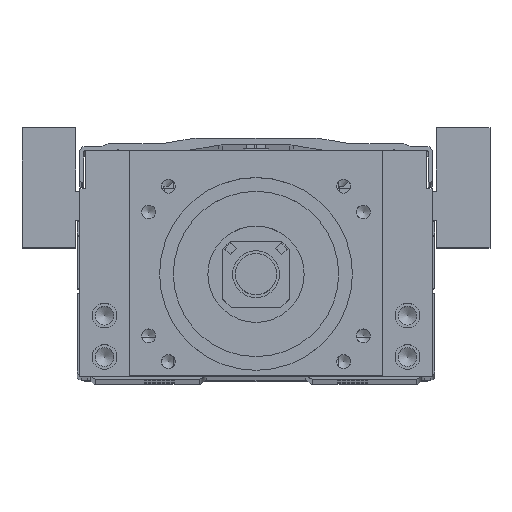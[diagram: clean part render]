
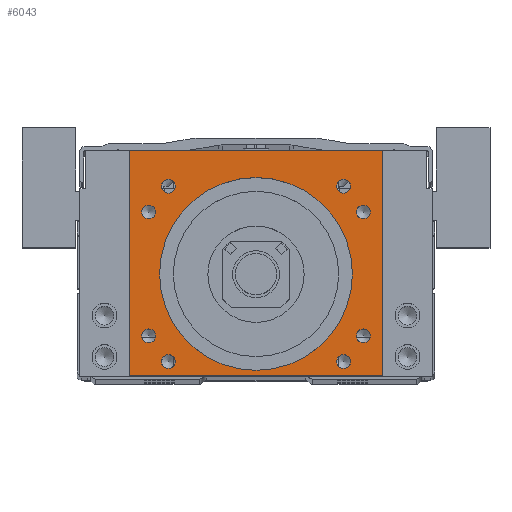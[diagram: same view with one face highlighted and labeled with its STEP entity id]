
A CAD part, top view. The second image highlights one B-rep face of the part: STEP entity #6043.
In plain terms, the highlighted planar face has unit normal (0, 0, 1).
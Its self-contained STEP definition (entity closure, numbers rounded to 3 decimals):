
#1844=LINE('',#26737,#3330);
#2217=LINE('',#28189,#3703);
#2222=LINE('',#28197,#3708);
#2227=LINE('',#28206,#3713);
#3330=VECTOR('',#21464,1.);
#3703=VECTOR('',#22635,1.);
#3708=VECTOR('',#22646,1.);
#3713=VECTOR('',#22653,1.);
#4986=FACE_BOUND('',#8581,.T.);
#4987=FACE_BOUND('',#8582,.T.);
#4988=FACE_BOUND('',#8583,.T.);
#4989=FACE_BOUND('',#8584,.T.);
#4990=FACE_BOUND('',#8585,.T.);
#4991=FACE_BOUND('',#8586,.T.);
#4992=FACE_BOUND('',#8587,.T.);
#4993=FACE_BOUND('',#8588,.T.);
#4994=FACE_BOUND('',#8589,.T.);
#4995=FACE_BOUND('',#8590,.T.);
#6043=ADVANCED_FACE('',(#4986,#4987,#4988,#4989,#4990,#4991,#4992,#4993,
#4994,#4995),#7080,.T.);
#7080=PLANE('',#19938);
#8581=EDGE_LOOP('',(#11100,#11101,#11102,#11103));
#8582=EDGE_LOOP('',(#11104));
#8583=EDGE_LOOP('',(#11105));
#8584=EDGE_LOOP('',(#11106));
#8585=EDGE_LOOP('',(#11107));
#8586=EDGE_LOOP('',(#11108));
#8587=EDGE_LOOP('',(#11109));
#8588=EDGE_LOOP('',(#11110));
#8589=EDGE_LOOP('',(#11111));
#8590=EDGE_LOOP('',(#11112));
#11100=ORIENTED_EDGE('',*,*,#17071,.T.);
#11101=ORIENTED_EDGE('',*,*,#16485,.T.);
#11102=ORIENTED_EDGE('',*,*,#17066,.T.);
#11103=ORIENTED_EDGE('',*,*,#17076,.T.);
#11104=ORIENTED_EDGE('',*,*,#17084,.F.);
#11105=ORIENTED_EDGE('',*,*,#17085,.T.);
#11106=ORIENTED_EDGE('',*,*,#17086,.T.);
#11107=ORIENTED_EDGE('',*,*,#17087,.F.);
#11108=ORIENTED_EDGE('',*,*,#17083,.F.);
#11109=ORIENTED_EDGE('',*,*,#17088,.T.);
#11110=ORIENTED_EDGE('',*,*,#17089,.T.);
#11111=ORIENTED_EDGE('',*,*,#17090,.T.);
#11112=ORIENTED_EDGE('',*,*,#17091,.T.);
#14686=VERTEX_POINT('',#26736);
#14687=VERTEX_POINT('',#26738);
#15101=VERTEX_POINT('',#28187);
#15103=VERTEX_POINT('',#28198);
#15109=VERTEX_POINT('',#28222);
#15110=VERTEX_POINT('',#28225);
#15111=VERTEX_POINT('',#28227);
#15112=VERTEX_POINT('',#28229);
#15113=VERTEX_POINT('',#28231);
#15114=VERTEX_POINT('',#28233);
#15115=VERTEX_POINT('',#28235);
#15116=VERTEX_POINT('',#28237);
#15117=VERTEX_POINT('',#28239);
#16485=EDGE_CURVE('',#14687,#14686,#1844,.T.);
#17066=EDGE_CURVE('',#14686,#15101,#2217,.T.);
#17071=EDGE_CURVE('',#15103,#14687,#2222,.T.);
#17076=EDGE_CURVE('',#15101,#15103,#2227,.T.);
#17083=EDGE_CURVE('',#15109,#15109,#18946,.T.);
#17084=EDGE_CURVE('',#15110,#15110,#18947,.T.);
#17085=EDGE_CURVE('',#15111,#15111,#18948,.T.);
#17086=EDGE_CURVE('',#15112,#15112,#18949,.T.);
#17087=EDGE_CURVE('',#15113,#15113,#18950,.T.);
#17088=EDGE_CURVE('',#15114,#15114,#18951,.T.);
#17089=EDGE_CURVE('',#15115,#15115,#18952,.T.);
#17090=EDGE_CURVE('',#15116,#15116,#18953,.T.);
#17091=EDGE_CURVE('',#15117,#15117,#18954,.T.);
#18946=CIRCLE('',#19928,35.015);
#18947=CIRCLE('',#19930,2.5);
#18948=CIRCLE('',#19931,2.5);
#18949=CIRCLE('',#19932,2.5);
#18950=CIRCLE('',#19933,2.5);
#18951=CIRCLE('',#19934,2.5);
#18952=CIRCLE('',#19935,2.5);
#18953=CIRCLE('',#19936,2.5);
#18954=CIRCLE('',#19937,2.5);
#19928=AXIS2_PLACEMENT_3D('',#28221,#22672,#22673);
#19930=AXIS2_PLACEMENT_3D('',#28224,#22676,#22677);
#19931=AXIS2_PLACEMENT_3D('',#28226,#22678,#22679);
#19932=AXIS2_PLACEMENT_3D('',#28228,#22680,#22681);
#19933=AXIS2_PLACEMENT_3D('',#28230,#22682,#22683);
#19934=AXIS2_PLACEMENT_3D('',#28232,#22684,#22685);
#19935=AXIS2_PLACEMENT_3D('',#28234,#22686,#22687);
#19936=AXIS2_PLACEMENT_3D('',#28236,#22688,#22689);
#19937=AXIS2_PLACEMENT_3D('',#28238,#22690,#22691);
#19938=AXIS2_PLACEMENT_3D('',#28240,#22692,#22693);
#21464=DIRECTION('',(-1.,0.,0.));
#22635=DIRECTION('',(0.,-1.,0.));
#22646=DIRECTION('',(0.,1.,0.));
#22653=DIRECTION('',(1.,0.,0.));
#22672=DIRECTION('',(0.,0.,1.));
#22673=DIRECTION('',(1.,0.,0.));
#22676=DIRECTION('',(0.,0.,1.));
#22677=DIRECTION('',(-1.,0.,0.));
#22678=DIRECTION('',(0.,0.,-1.));
#22679=DIRECTION('',(1.,0.,0.));
#22680=DIRECTION('',(0.,0.,-1.));
#22681=DIRECTION('',(1.,0.,0.));
#22682=DIRECTION('',(0.,0.,1.));
#22683=DIRECTION('',(-1.,0.,0.));
#22684=DIRECTION('',(0.,0.,-1.));
#22685=DIRECTION('',(1.,0.,0.));
#22686=DIRECTION('',(0.,0.,-1.));
#22687=DIRECTION('',(1.,0.,0.));
#22688=DIRECTION('',(0.,0.,-1.));
#22689=DIRECTION('',(1.,0.,0.));
#22690=DIRECTION('',(0.,0.,-1.));
#22691=DIRECTION('',(1.,0.,0.));
#22692=DIRECTION('',(0.,0.,1.));
#22693=DIRECTION('',(1.,0.,0.));
#26736=CARTESIAN_POINT('',(-46.,83.,100.));
#26737=CARTESIAN_POINT('',(0.,83.,100.));
#26738=CARTESIAN_POINT('',(46.,83.,100.));
#28187=CARTESIAN_POINT('',(-46.,1.,100.));
#28189=CARTESIAN_POINT('',(-46.,38.,100.));
#28197=CARTESIAN_POINT('',(46.,38.,100.));
#28198=CARTESIAN_POINT('',(46.,1.,100.));
#28206=CARTESIAN_POINT('',(0.,1.,100.));
#28221=CARTESIAN_POINT('',(0.,38.,100.));
#28222=CARTESIAN_POINT('',(35.015,38.,100.));
#28224=CARTESIAN_POINT('',(-38.971,15.5,100.));
#28225=CARTESIAN_POINT('',(-41.471,15.5,100.));
#28226=CARTESIAN_POINT('',(38.971,60.5,100.));
#28227=CARTESIAN_POINT('',(41.471,60.5,100.));
#28228=CARTESIAN_POINT('',(38.971,15.5,100.));
#28229=CARTESIAN_POINT('',(41.471,15.5,100.));
#28230=CARTESIAN_POINT('',(-38.971,60.5,100.));
#28231=CARTESIAN_POINT('',(-41.471,60.5,100.));
#28232=CARTESIAN_POINT('',(-31.82,69.82,100.));
#28233=CARTESIAN_POINT('',(-29.32,69.82,100.));
#28234=CARTESIAN_POINT('',(-31.82,6.18,100.));
#28235=CARTESIAN_POINT('',(-29.32,6.18,100.));
#28236=CARTESIAN_POINT('',(31.82,6.18,100.));
#28237=CARTESIAN_POINT('',(34.32,6.18,100.));
#28238=CARTESIAN_POINT('',(31.82,69.82,100.));
#28239=CARTESIAN_POINT('',(34.32,69.82,100.));
#28240=CARTESIAN_POINT('',(0.,38.,100.));
